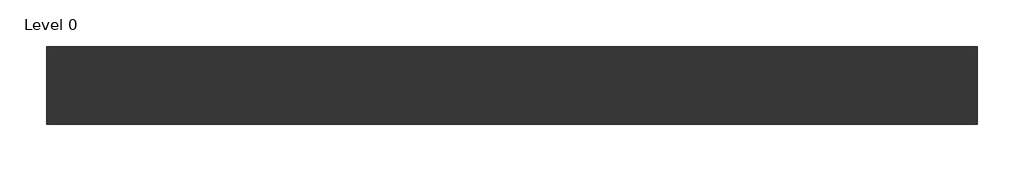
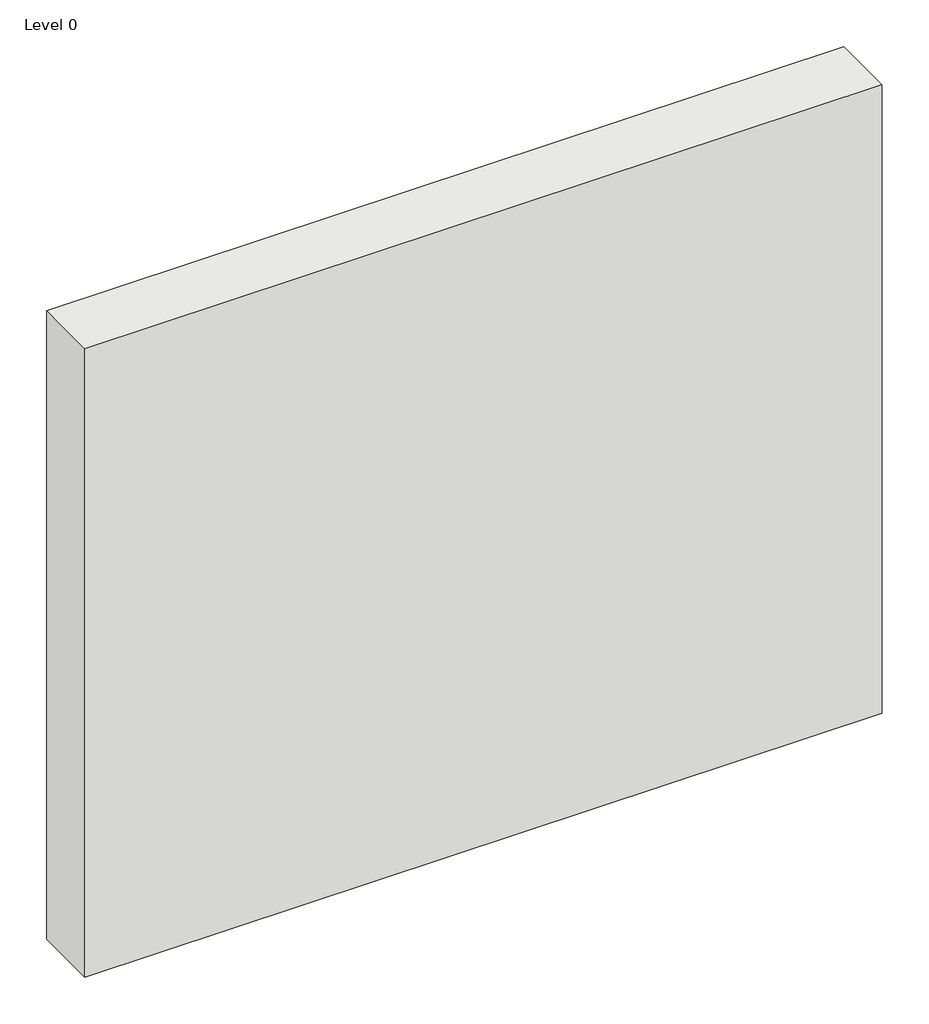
# One storey: 1 wall.
"""IFC4 building model written with IfcOpenShell, lengths in millimetres."""

from ifc_helpers import new_model, si_unit, origin, origin_with_axes, place, context, project, spatial, polyline, outline, extrude, element, save

model = new_model("IFC4")

# Units and contexts
model_context = context("Model", 3, world=origin())
ifc_project = project(units=[si_unit("LENGTHUNIT", "METRE", prefix="MILLI")], contexts=[model_context])

# Site, building, storey
site = spatial("IfcSite", under=ifc_project)
building = spatial("IfcBuilding", under=site)
storey = spatial("IfcBuildingStorey", under=building, Name="Level 0", Elevation=0.0)

# Wall
placement = place(None, origin())
element("IfcWall", 1, ObjectType="A216013 - GypWall QUIET IWL", at=placement, inside=storey, context=model_context, shape_type="SweptSolid", body=[
    extrude(outline(polyline([(2116.0807354, 468.7205641), (-883.9192646, 468.7205641), (-883.9192646, 718.7205641), (2116.0807354, 718.7205641), (2116.0807354, 468.7205641)])), origin_with_axes(), (0.0, 0.0, 1.0), 2500.0),
])

save(model, "model.ifc")
